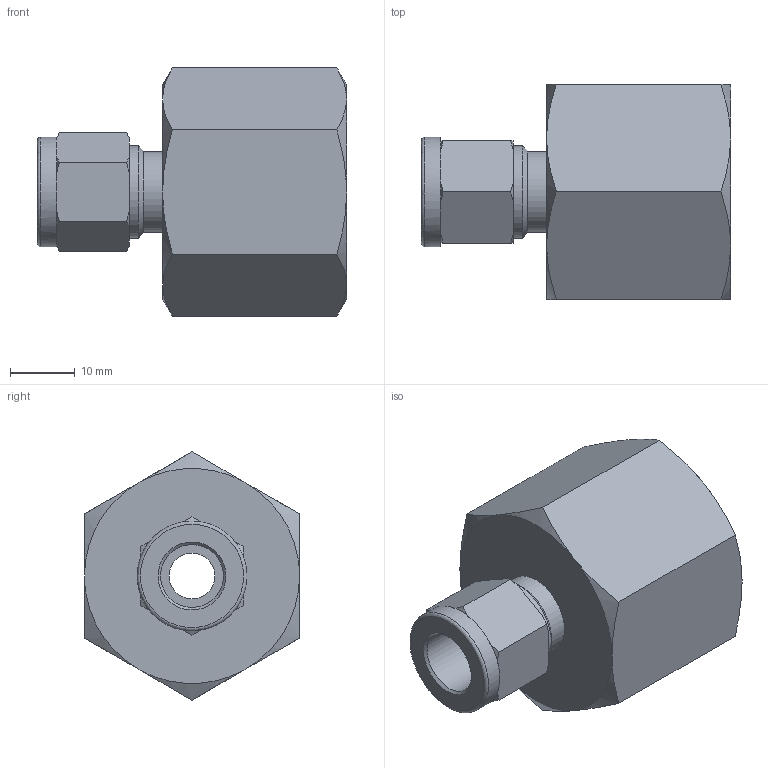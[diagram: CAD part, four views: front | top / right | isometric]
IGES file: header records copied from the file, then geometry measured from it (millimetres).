
Global section: file name: SFC-6-12N; native system: Autodesk Inventor 2016; preprocessor: unknown; author: 배성훈,,11,0; organization: 20151010.053904; date: 20151019.102600; units: millimetre
Bounding box: 47.91 x 33.33 x 38.49 mm (x, y, z)
Volume: 20099 mm3; surface area: 8299.9 mm2
Topology: 1 solids, 1 shells, 60 faces, 160 edges, 106 vertices
Faces by surface type: bspline 60
